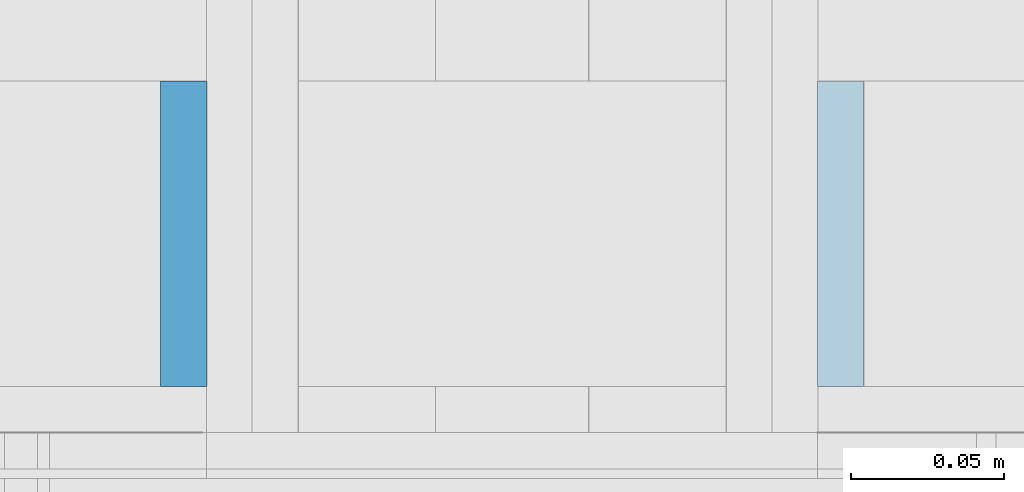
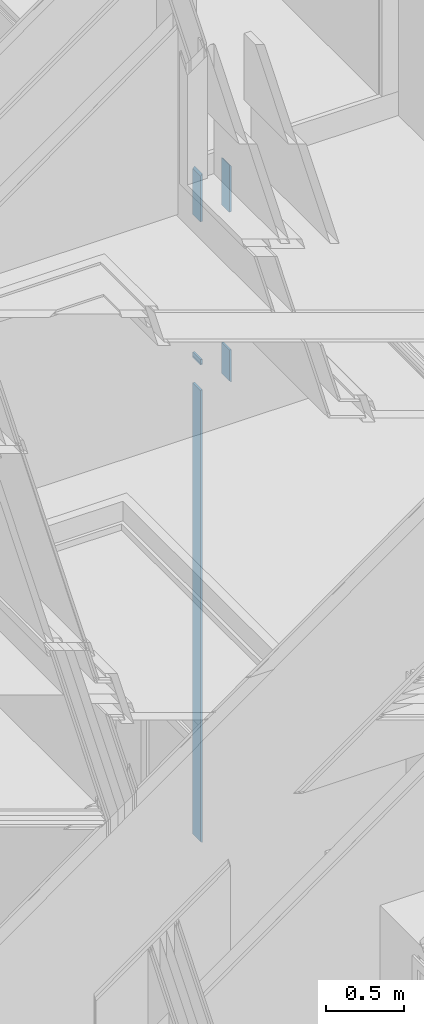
# One storey, part 23 of 583: 4 walls, 3 openings.
"""IFC2X3 building model written with IfcOpenShell, lengths in metres."""

from ifc_helpers import new_model, entity, si_unit, converted_unit, derived_unit, money_unit, direction, frame, frame_2d, origin_with_axes, place, context, subcontext, project, spatial, polyline, rectangle, outline, extrude, material, type_object, element, save


model = new_model("IFC2X3")

# Units and contexts
model_context = context("Model", 3, precision=1e-05, world=origin_with_axes(), true_north=direction((0.0, 1.0)))
body_context = subcontext(model_context, "Body", "Model", "MODEL_VIEW", scale=1.0)
ifc_project = project(units=[si_unit("LENGTHUNIT", "METRE"), si_unit("AREAUNIT", "SQUARE_METRE"), si_unit("VOLUMEUNIT", "CUBIC_METRE"), si_unit("ABSORBEDDOSEUNIT", "GRAY"), si_unit("AMOUNTOFSUBSTANCEUNIT", "MOLE"), si_unit("DOSEEQUIVALENTUNIT", "SIEVERT"), si_unit("ELECTRICCAPACITANCEUNIT", "FARAD"), si_unit("ELECTRICCHARGEUNIT", "COULOMB"), si_unit("ELECTRICCONDUCTANCEUNIT", "SIEMENS"), si_unit("ELECTRICCURRENTUNIT", "AMPERE"), si_unit("ELECTRICRESISTANCEUNIT", "OHM"), si_unit("ELECTRICVOLTAGEUNIT", "VOLT"), si_unit("ENERGYUNIT", "JOULE"), si_unit("FORCEUNIT", "NEWTON"), si_unit("FREQUENCYUNIT", "HERTZ"), si_unit("ILLUMINANCEUNIT", "LUX"), si_unit("INDUCTANCEUNIT", "HENRY"), si_unit("LUMINOUSFLUXUNIT", "LUMEN"), si_unit("LUMINOUSINTENSITYUNIT", "CANDELA"), si_unit("MAGNETICFLUXDENSITYUNIT", "TESLA"), si_unit("MAGNETICFLUXUNIT", "WEBER"), si_unit("MASSUNIT", "GRAM"), converted_unit("PLANEANGLEUNIT", "degree", entity("IfcReal", 0.0174532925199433), si_unit("PLANEANGLEUNIT", "RADIAN"), dimensions=[0, 0, 0, 0, 0, 0, 0]), si_unit("POWERUNIT", "WATT"), si_unit("PRESSUREUNIT", "PASCAL"), si_unit("RADIOACTIVITYUNIT", "BECQUEREL"), si_unit("SOLIDANGLEUNIT", "STERADIAN"), si_unit("THERMODYNAMICTEMPERATUREUNIT", "KELVIN"), si_unit("TIMEUNIT", "SECOND"), derived_unit("ACCELERATIONUNIT", [(si_unit("LENGTHUNIT", "METRE"), 1), (si_unit("TIMEUNIT", "SECOND"), -2)]), derived_unit("ANGULARVELOCITYUNIT", [(converted_unit("PLANEANGLEUNIT", "degree", entity("IfcReal", 0.0174532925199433), si_unit("PLANEANGLEUNIT", "RADIAN"), dimensions=[0, 0, 0, 0, 0, 0, 0]), 1), (si_unit("TIMEUNIT", "SECOND"), -1)]), derived_unit("CURVATUREUNIT", [(converted_unit("PLANEANGLEUNIT", "degree", entity("IfcReal", 0.0174532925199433), si_unit("PLANEANGLEUNIT", "RADIAN"), dimensions=[0, 0, 0, 0, 0, 0, 0]), 1), (si_unit("LENGTHUNIT", "METRE"), -1)]), derived_unit("DYNAMICVISCOSITYUNIT", [(si_unit("PRESSUREUNIT", "PASCAL"), 1), (si_unit("TIMEUNIT", "SECOND"), 1)]), derived_unit("HEATFLUXDENSITYUNIT", [(si_unit("POWERUNIT", "WATT"), 1), (si_unit("LENGTHUNIT", "METRE"), -2)]), derived_unit("HEATINGVALUEUNIT", [(si_unit("ENERGYUNIT", "JOULE"), 1), (si_unit("MASSUNIT", "GRAM"), -1)]), derived_unit("INTEGERCOUNTRATEUNIT", [(si_unit("TIMEUNIT", "SECOND"), -1)]), derived_unit("IONCONCENTRATIONUNIT", [(si_unit("MASSUNIT", "GRAM"), 1), (si_unit("VOLUMEUNIT", "CUBIC_METRE"), -1)]), derived_unit("ISOTHERMALMOISTURECAPACITYUNIT", [(si_unit("VOLUMEUNIT", "CUBIC_METRE"), 1), (si_unit("MASSUNIT", "GRAM"), -1)]), derived_unit("KINEMATICVISCOSITYUNIT", [(si_unit("AREAUNIT", "SQUARE_METRE"), 1), (si_unit("TIMEUNIT", "SECOND"), -1)]), derived_unit("LINEARFORCEUNIT", [(si_unit("FORCEUNIT", "NEWTON"), 1), (si_unit("LENGTHUNIT", "METRE"), -1)]), derived_unit("LINEARMOMENTUNIT", [(si_unit("FORCEUNIT", "NEWTON"), 1), (si_unit("LENGTHUNIT", "METRE"), -1)]), derived_unit("LINEARSTIFFNESSUNIT", [(si_unit("FORCEUNIT", "NEWTON"), 1), (si_unit("LENGTHUNIT", "METRE"), -1)]), derived_unit("LINEARVELOCITYUNIT", [(si_unit("LENGTHUNIT", "METRE"), 1), (si_unit("TIMEUNIT", "SECOND"), -1)]), derived_unit("LUMINOUSINTENSITYDISTRIBUTIONUNIT", [(si_unit("LUMINOUSINTENSITYUNIT", "CANDELA"), 1), (si_unit("LUMINOUSFLUXUNIT", "LUMEN"), -1)]), derived_unit("MASSDENSITYUNIT", [(si_unit("MASSUNIT", "GRAM"), 1), (si_unit("VOLUMEUNIT", "CUBIC_METRE"), -1)]), derived_unit("MASSFLOWRATEUNIT", [(si_unit("MASSUNIT", "GRAM"), 1), (si_unit("TIMEUNIT", "SECOND"), -1)]), derived_unit("MASSPERLENGTHUNIT", [(si_unit("MASSUNIT", "GRAM"), 1), (si_unit("LENGTHUNIT", "METRE"), -1)]), derived_unit("MODULUSOFELASTICITYUNIT", [(si_unit("FORCEUNIT", "NEWTON"), 1), (si_unit("AREAUNIT", "SQUARE_METRE"), -1)]), derived_unit("MODULUSOFLINEARSUBGRADEREACTIONUNIT", [(si_unit("FORCEUNIT", "NEWTON"), 1), (si_unit("LENGTHUNIT", "METRE"), -2)]), derived_unit("MODULUSOFROTATIONALSUBGRADEREACTIONUNIT", [(si_unit("FORCEUNIT", "NEWTON"), 1), (si_unit("LENGTHUNIT", "METRE"), 1)]), derived_unit("MODULUSOFSUBGRADEREACTIONUNIT", [(si_unit("FORCEUNIT", "NEWTON"), 1), (si_unit("VOLUMEUNIT", "CUBIC_METRE"), -1)]), derived_unit("MOISTUREDIFFUSIVITYUNIT", [(si_unit("VOLUMEUNIT", "CUBIC_METRE"), 1), (si_unit("TIMEUNIT", "SECOND"), -1)]), derived_unit("MOLECULARWEIGHTUNIT", [(si_unit("MASSUNIT", "GRAM"), 1), (si_unit("AMOUNTOFSUBSTANCEUNIT", "MOLE"), -1)]), derived_unit("PLANARFORCEUNIT", [(si_unit("FORCEUNIT", "NEWTON"), 1), (si_unit("LENGTHUNIT", "METRE"), -2)]), derived_unit("ROTATIONALFREQUENCYUNIT", [(si_unit("TIMEUNIT", "SECOND"), -1)]), derived_unit("ROTATIONALMASSUNIT", [(si_unit("MASSUNIT", "GRAM"), 1), (si_unit("LENGTHUNIT", "METRE"), 2)]), derived_unit("ROTATIONALSTIFFNESSUNIT", [(si_unit("FORCEUNIT", "NEWTON"), 1), (si_unit("LENGTHUNIT", "METRE"), 1), (converted_unit("PLANEANGLEUNIT", "degree", entity("IfcReal", 0.0174532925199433), si_unit("PLANEANGLEUNIT", "RADIAN"), dimensions=[0, 0, 0, 0, 0, 0, 0]), -1)]), derived_unit("SECTIONAREAINTEGRALUNIT", [(si_unit("LENGTHUNIT", "METRE"), 5)]), derived_unit("SECTIONMODULUSUNIT", [(si_unit("LENGTHUNIT", "METRE"), 3)]), derived_unit("SHEARMODULUSUNIT", [(si_unit("FORCEUNIT", "NEWTON"), 1), (si_unit("AREAUNIT", "SQUARE_METRE"), -1)]), derived_unit("SOUNDPOWERUNIT", [(si_unit("ENERGYUNIT", "JOULE"), 1), (si_unit("TIMEUNIT", "SECOND"), -1)]), derived_unit("SPECIFICHEATCAPACITYUNIT", [(si_unit("FORCEUNIT", "NEWTON"), 1), (si_unit("MASSUNIT", "GRAM"), -1), (si_unit("THERMODYNAMICTEMPERATUREUNIT", "KELVIN"), -1)]), derived_unit("TEMPERATUREGRADIENTUNIT", [(si_unit("THERMODYNAMICTEMPERATUREUNIT", "KELVIN"), 1), (si_unit("LENGTHUNIT", "METRE"), -1)]), derived_unit("THERMALADMITTANCEUNIT", [(si_unit("POWERUNIT", "WATT"), 1), (si_unit("AREAUNIT", "SQUARE_METRE"), -1), (si_unit("THERMODYNAMICTEMPERATUREUNIT", "KELVIN"), -1)]), derived_unit("THERMALCONDUCTANCEUNIT", [(si_unit("POWERUNIT", "WATT"), 1), (si_unit("LENGTHUNIT", "METRE"), -1), (si_unit("THERMODYNAMICTEMPERATUREUNIT", "KELVIN"), -1)]), derived_unit("THERMALEXPANSIONCOEFFICIENTUNIT", [(si_unit("THERMODYNAMICTEMPERATUREUNIT", "KELVIN"), -1)]), derived_unit("THERMALRESISTANCEUNIT", [(si_unit("AREAUNIT", "SQUARE_METRE"), 1), (si_unit("POWERUNIT", "WATT"), -1)]), derived_unit("THERMALTRANSMITTANCEUNIT", [(si_unit("POWERUNIT", "WATT"), 1), (si_unit("AREAUNIT", "SQUARE_METRE"), -1), (si_unit("THERMODYNAMICTEMPERATUREUNIT", "KELVIN"), -1)]), derived_unit("TORQUEUNIT", [(si_unit("FORCEUNIT", "NEWTON"), 1), (si_unit("LENGTHUNIT", "METRE"), 1)]), derived_unit("VAPORPERMEABILITYUNIT", [(si_unit("MASSUNIT", "GRAM"), 1), (si_unit("TIMEUNIT", "SECOND"), -1)]), derived_unit("VOLUMETRICFLOWRATEUNIT", [(si_unit("VOLUMEUNIT", "CUBIC_METRE"), 1), (si_unit("TIMEUNIT", "SECOND"), -1)]), derived_unit("WARPINGCONSTANTUNIT", [(si_unit("LENGTHUNIT", "METRE"), 6)]), derived_unit("WARPINGMOMENTUNIT", [(si_unit("FORCEUNIT", "NEWTON"), 1), (si_unit("LENGTHUNIT", "METRE"), 2)]), money_unit("GBP")], contexts=[model_context])

# Site, building, storey
site_placement = place(None, origin_with_axes())
site = spatial("IfcSite", under=ifc_project, at=site_placement, Name="Site", CompositionType="ELEMENT")
building_placement = place(site_placement, origin_with_axes())
building = spatial("IfcBuilding", under=site, at=building_placement, Name="Building01", CompositionType="ELEMENT")
storey_placement = place(building_placement, frame((0.0, 0.0, 20.78), z_axis=(0.0, 0.0, 1.0), x_axis=(1.0, 0.0, 0.0)))
storey = spatial("IfcBuildingStorey", under=building, at=storey_placement, Name="RL", CompositionType="ELEMENT", Elevation=20.78)

# Wall, opening
ifc_material = material(Name="A_BSUK_Walls_Timber")
wall_type = type_object("IfcWallType", Name="default", PredefinedType="NOTDEFINED")
placement = place(storey_placement, frame((7.349939, 14.995, -11.72), z_axis=(0.0, 1.0, 0.0), x_axis=(0.0, 0.0, -1.0)))
wall_1 = element("IfcWall", 1, at=placement, inside=storey, type_object=wall_type, material=ifc_material, Name="default", ObjectType="default", context=body_context, shape_type="SweptSolid", body=[
    extrude(outline(polyline([(1.485, 0.015), (0.015, 0.015), (0.0, 0.0), (1.5, 0.0), (1.485, 0.015)])), origin_with_axes(), (0.0, 0.0, 1.0), 0.1),
])
opening_1_placement = place(placement, frame((0.374, 0.015, -0.015), z_axis=(0.0, 0.0, 1.0), x_axis=(1.0, 0.0, 0.0)))
element("IfcOpeningElement", 2, at=opening_1_placement, cuts=wall_1, Name="Opening", ObjectType="Opening", context=body_context, shape_type="SweptSolid", body=[
    extrude(rectangle(XDim=2.142, YDim=1.084, at=frame_2d((0.542, 1.071), x_axis=(0.0, -1.0))), frame((0.0, 0.0, 0.0), z_axis=(0.0, -1.0, 0.0), x_axis=(1.0, 0.0, 0.0)), (0.0, 0.0, 1.0), 0.015),
])

wall_2_placement = place(storey_placement, frame((7.564939, 14.995, -11.735), z_axis=(0.0, 1.0, 0.0), x_axis=(0.0, 0.0, -1.0)))
wall_2 = element("IfcWall", 3, at=wall_2_placement, inside=storey, type_object=wall_type, material=ifc_material, Name="default", ObjectType="default", context=body_context, shape_type="SweptSolid", body=[
    extrude(outline(polyline([(1.685, 0.015), (-0.015, 0.015), (0.0, 0.0), (1.7, 0.0), (1.685, 0.015)])), origin_with_axes(), (0.0, 0.0, 1.0), 0.1),
])
opening_2_placement = place(wall_2_placement, frame((0.359, 0.015, -0.015), z_axis=(0.0, 0.0, 1.0), x_axis=(1.0, 0.0, 0.0)))
element("IfcOpeningElement", 4, at=opening_2_placement, cuts=wall_2, Name="Opening", ObjectType="Opening", context=body_context, shape_type="SweptSolid", body=[
    extrude(rectangle(XDim=2.142, YDim=1.084, at=frame_2d((0.542, 1.071), x_axis=(0.0, -1.0))), frame((0.0, 0.0, 0.0), z_axis=(0.0, -1.0, 0.0), x_axis=(1.0, 0.0, 0.0)), (0.0, 0.0, 1.0), 0.015),
])

wall_3 = element("IfcWall", 5, at=placement, inside=storey, type_object=wall_type, material=ifc_material, Name="default", ObjectType="default", context=body_context, shape_type="SweptSolid", body=[
    extrude(outline(polyline([(1.5, 0.015), (0.015, 0.015), (0.0, 0.0), (1.5, 0.0), (1.5, 0.015)])), origin_with_axes(), (0.0, 0.0, 1.0), 0.1),
])
opening_3_placement = place(placement, frame((0.374, 0.0, -0.015), z_axis=(0.0, 0.0, 1.0), x_axis=(1.0, 0.0, 0.0)))
element("IfcOpeningElement", 6, at=opening_3_placement, cuts=wall_3, Name="Opening", ObjectType="Opening", context=body_context, shape_type="SweptSolid", body=[
    extrude(rectangle(XDim=2.142, YDim=1.084, at=frame_2d((-0.542, 1.071), x_axis=(0.0, -1.0))), frame((0.0, 0.0, 0.0), z_axis=(0.0, 1.0, 0.0), x_axis=(-1.0, 0.0, 0.0)), (0.0, 0.0, 1.0), 0.015),
])

# Wall
wall_4_placement = place(storey_placement, frame((7.349939, 14.995, -13.42), z_axis=(0.0, 1.0, 0.0), x_axis=(0.0, 0.0, -1.0)))
element("IfcWall", 7, at=wall_4_placement, inside=storey, type_object=wall_type, material=ifc_material, Name="default", ObjectType="default", context=body_context, shape_type="SweptSolid", body=[
    extrude(outline(polyline([(3.549889, 0.015), (0.0, 0.015), (0.0, 0.0), (3.564889, 0.0), (3.549889, 0.015)])), origin_with_axes(), (0.0, 0.0, 1.0), 0.1),
])

save(model, "model.ifc")
